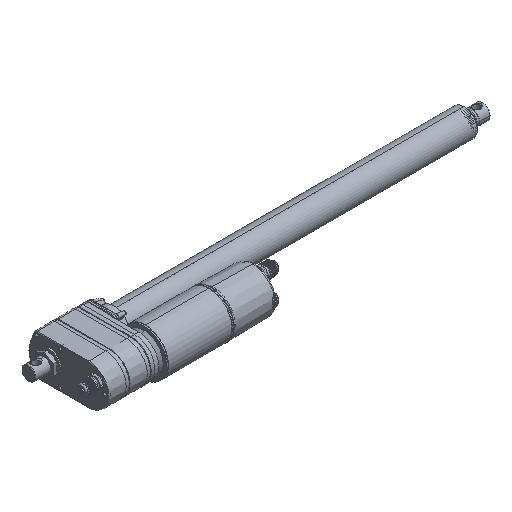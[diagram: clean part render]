
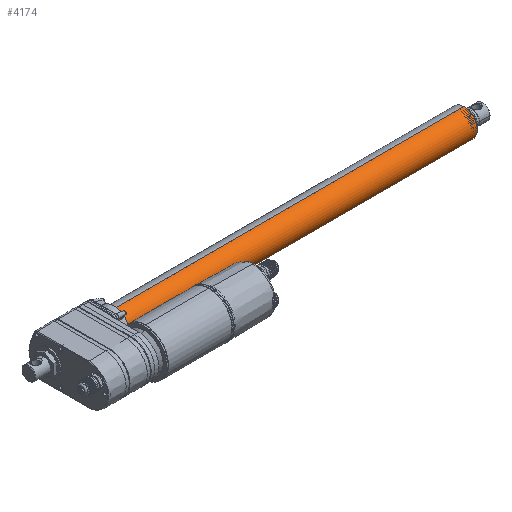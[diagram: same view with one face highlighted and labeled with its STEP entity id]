
A CAD part, isometric view. The second image highlights one B-rep face of the part: STEP entity #4174.
In plain terms, the highlighted cylindrical face has radius 25.4 mm (diameter 50.8 mm), a partial arc.
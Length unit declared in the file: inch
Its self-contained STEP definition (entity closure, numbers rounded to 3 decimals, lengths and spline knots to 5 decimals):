
#4174=ADVANCED_FACE('',(#8964),#8965,.T.);
#8964=FACE_OUTER_BOUND('',#16470,.T.);
#8965=CYLINDRICAL_SURFACE('',#16471,1.0);
#16470=EDGE_LOOP('',(#29747,#29748,#29749,#29750));
#16471=AXIS2_PLACEMENT_3D('',#29751,#29752,#29753);
#29747=ORIENTED_EDGE('',*,*,#37901,.F.);
#29748=ORIENTED_EDGE('',*,*,#40687,.T.);
#29749=ORIENTED_EDGE('',*,*,#37900,.T.);
#29750=ORIENTED_EDGE('',*,*,#38352,.T.);
#29751=CARTESIAN_POINT('',(0.25197,0.0,0.0));
#29752=DIRECTION('',(1.0,-0.0,-0.0));
#29753=DIRECTION('',(0.0,0.0,-1.0));
#37900=EDGE_CURVE('',#44094,#45623,#45624,.T.);
#37901=EDGE_CURVE('',#44091,#45625,#45626,.T.);
#38352=EDGE_CURVE('',#45623,#45625,#46332,.T.);
#40687=EDGE_CURVE('',#44091,#44094,#49586,.T.);
#44091=VERTEX_POINT('',#55168);
#44094=VERTEX_POINT('',#55172);
#45623=VERTEX_POINT('',#57719);
#45624=LINE('',#57720,#57721);
#45625=VERTEX_POINT('',#57722);
#45626=LINE('',#57723,#57724);
#46332=CIRCLE('',#58903,0.99998);
#49586=CIRCLE('',#64601,0.99998);
#55168=CARTESIAN_POINT('',(27.00392,0.0,-0.99999));
#55172=CARTESIAN_POINT('',(27.00392,0.,0.99998));
#57719=CARTESIAN_POINT('',(0.27167,0.,0.99999));
#57720=CARTESIAN_POINT('',(27.00392,0.,0.99999));
#57721=VECTOR('',#69268,26.73226);
#57722=CARTESIAN_POINT('',(0.27168,0.,-0.99998));
#57723=CARTESIAN_POINT('',(27.00392,0.0,-0.99999));
#57724=VECTOR('',#69269,26.73226);
#58903=AXIS2_PLACEMENT_3D('',#69795,#69796,#69797);
#64601=AXIS2_PLACEMENT_3D('',#72403,#72404,#72405);
#69268=DIRECTION('',(-1.0,0.0,0.));
#69269=DIRECTION('',(-1.0,0.0,0.));
#69795=CARTESIAN_POINT('',(0.27168,0.,0.));
#69796=DIRECTION('',(1.0,0.0,-0.0));
#69797=DIRECTION('',(0.0,0.,1.0));
#72403=CARTESIAN_POINT('',(27.00392,0.,0.));
#72404=DIRECTION('',(-1.0,0.0,0.0));
#72405=DIRECTION('',(0.0,0.0,-1.0));
